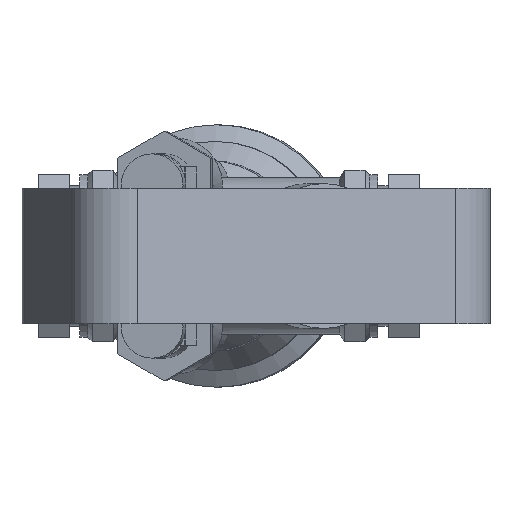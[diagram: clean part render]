
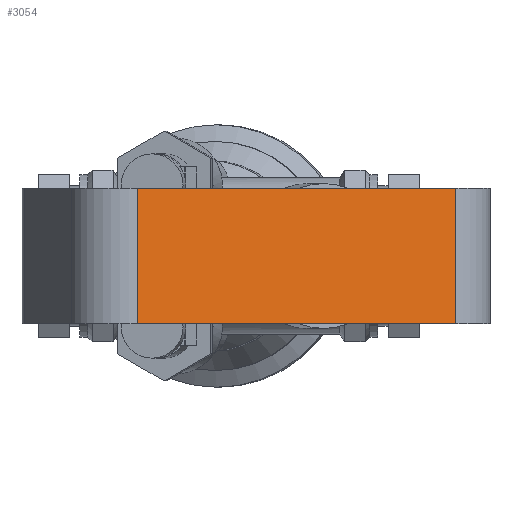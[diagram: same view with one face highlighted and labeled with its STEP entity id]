
A CAD part, front view. The second image highlights one B-rep face of the part: STEP entity #3054.
In plain terms, the highlighted planar face has unit normal (0.342, -0.94, 0).
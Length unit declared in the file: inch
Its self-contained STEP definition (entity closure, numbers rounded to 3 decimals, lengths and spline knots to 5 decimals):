
#106=PLANE('',#3379);
#244=FACE_OUTER_BOUND('',#422,.T.);
#422=EDGE_LOOP('',(#2145,#2146,#2147,#2148));
#610=LINE('',#4994,#853);
#617=LINE('',#5050,#860);
#618=LINE('',#5053,#861);
#619=LINE('',#5054,#862);
#853=VECTOR('',#3828,0.3937);
#860=VECTOR('',#3867,0.3937);
#861=VECTOR('',#3870,0.3937);
#862=VECTOR('',#3871,0.3937);
#1304=VERTEX_POINT('',#4991);
#1305=VERTEX_POINT('',#4993);
#1318=VERTEX_POINT('',#5048);
#1319=VERTEX_POINT('',#5052);
#1618=EDGE_CURVE('',#1304,#1305,#610,.T.);
#1637=EDGE_CURVE('',#1318,#1304,#617,.T.);
#1638=EDGE_CURVE('',#1319,#1318,#618,.T.);
#1639=EDGE_CURVE('',#1319,#1305,#619,.T.);
#2145=ORIENTED_EDGE('',*,*,#1637,.F.);
#2146=ORIENTED_EDGE('',*,*,#1638,.F.);
#2147=ORIENTED_EDGE('',*,*,#1639,.T.);
#2148=ORIENTED_EDGE('',*,*,#1618,.F.);
#3054=ADVANCED_FACE('',(#244),#106,.T.);
#3379=AXIS2_PLACEMENT_3D('',#5051,#3868,#3869);
#3828=DIRECTION('',(-0.94,-0.342,0.));
#3867=DIRECTION('',(0.,0.,-1.));
#3868=DIRECTION('center_axis',(0.342,-0.94,0.));
#3869=DIRECTION('ref_axis',(0.94,0.342,0.));
#3870=DIRECTION('',(0.94,0.342,0.));
#3871=DIRECTION('',(0.,0.,-1.));
#4991=CARTESIAN_POINT('',(2.18003,-4.1076,-0.65));
#4993=CARTESIAN_POINT('',(-0.87584,-5.21985,-0.65));
#4994=CARTESIAN_POINT('',(2.18003,-4.1076,-0.65));
#5048=CARTESIAN_POINT('',(2.18003,-4.1076,0.65));
#5050=CARTESIAN_POINT('',(2.18003,-4.1076,0.));
#5051=CARTESIAN_POINT('Origin',(-0.87584,-5.21985,0.));
#5052=CARTESIAN_POINT('',(-0.87584,-5.21985,0.65));
#5053=CARTESIAN_POINT('',(2.18003,-4.1076,0.65));
#5054=CARTESIAN_POINT('',(-0.87584,-5.21985,0.));
